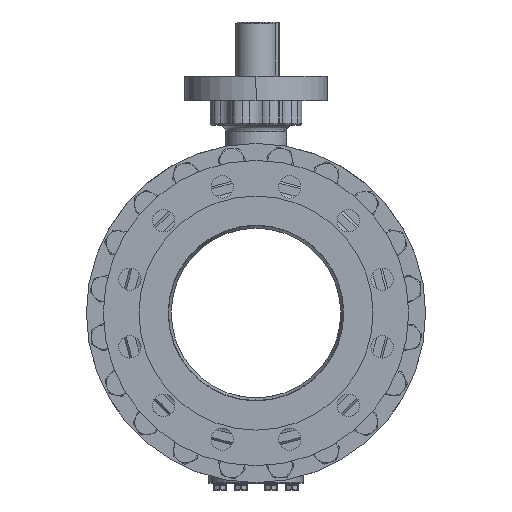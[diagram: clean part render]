
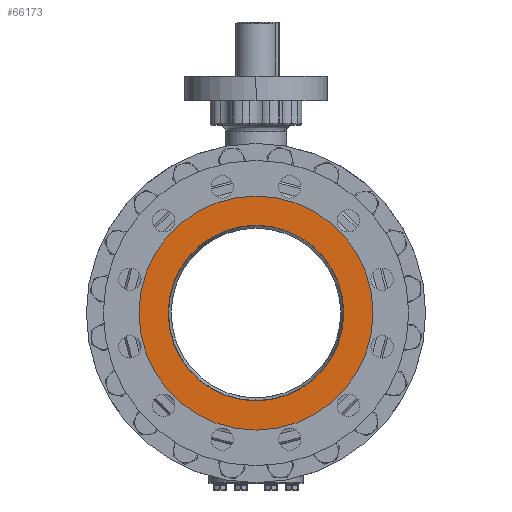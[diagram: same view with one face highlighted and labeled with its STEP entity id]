
A CAD part, left-side view. The second image highlights one B-rep face of the part: STEP entity #66173.
In plain terms, the highlighted planar face has unit normal (-1, 0, 0).
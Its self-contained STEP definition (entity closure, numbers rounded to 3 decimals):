
#4100=CARTESIAN_POINT('',(-284.,0.,0.));
#4101=DIRECTION('',(1.,0.,0.));
#4102=DIRECTION('',(0.,0.,1.));
#4103=AXIS2_PLACEMENT_3D('',#4100,#4101,#4102);
#4105=CARTESIAN_POINT('',(-284.,0.,0.));
#4106=DIRECTION('',(1.,0.,0.));
#4107=DIRECTION('',(0.,0.,-1.));
#4108=AXIS2_PLACEMENT_3D('',#4105,#4106,#4107);
#4110=CARTESIAN_POINT('',(-284.,0.,0.));
#4111=DIRECTION('',(1.,0.,0.));
#4112=DIRECTION('',(0.,0.,1.));
#4113=AXIS2_PLACEMENT_3D('',#4110,#4111,#4112);
#4115=CARTESIAN_POINT('',(-284.,0.,0.));
#4116=DIRECTION('',(-1.,0.,0.));
#4117=DIRECTION('',(0.,0.,1.));
#4118=AXIS2_PLACEMENT_3D('',#4115,#4116,#4117);
#55543=CARTESIAN_POINT('',(-284.,0.,129.4));
#55545=VERTEX_POINT('',#55543);
#55547=CARTESIAN_POINT('',(-284.,0.,-129.4));
#55549=VERTEX_POINT('',#55547);
#55578=CARTESIAN_POINT('',(-284.,0.,172.5));
#55579=CARTESIAN_POINT('',(-284.,0.,-172.5));
#55580=VERTEX_POINT('',#55578);
#55581=VERTEX_POINT('',#55579);
#66157=CARTESIAN_POINT('',(-284.,0.,0.));
#66158=DIRECTION('',(-1.,0.,0.));
#66159=DIRECTION('',(0.,0.,-1.));
#66160=AXIS2_PLACEMENT_3D('',#66157,#66158,#66159);
#66161=PLANE('',#66160);
#66163=ORIENTED_EDGE('',*,*,#66162,.T.);
#66164=ORIENTED_EDGE('',*,*,#66147,.T.);
#66165=EDGE_LOOP('',(#66163,#66164));
#66166=FACE_OUTER_BOUND('',#66165,.F.);
#66168=ORIENTED_EDGE('',*,*,#66167,.F.);
#66170=ORIENTED_EDGE('',*,*,#66169,.T.);
#66171=EDGE_LOOP('',(#66168,#66170));
#66172=FACE_BOUND('',#66171,.F.);
#66173=ADVANCED_FACE('',(#66166,#66172),#66161,.T.);
#4104=CIRCLE('',#4103,172.5);
#4109=CIRCLE('',#4108,172.5);
#4114=CIRCLE('',#4113,129.4);
#4119=CIRCLE('',#4118,129.4);
#66147=EDGE_CURVE('',#55581,#55580,#4109,.T.);
#66162=EDGE_CURVE('',#55580,#55581,#4104,.T.);
#66167=EDGE_CURVE('',#55545,#55549,#4114,.T.);
#66169=EDGE_CURVE('',#55545,#55549,#4119,.T.);
